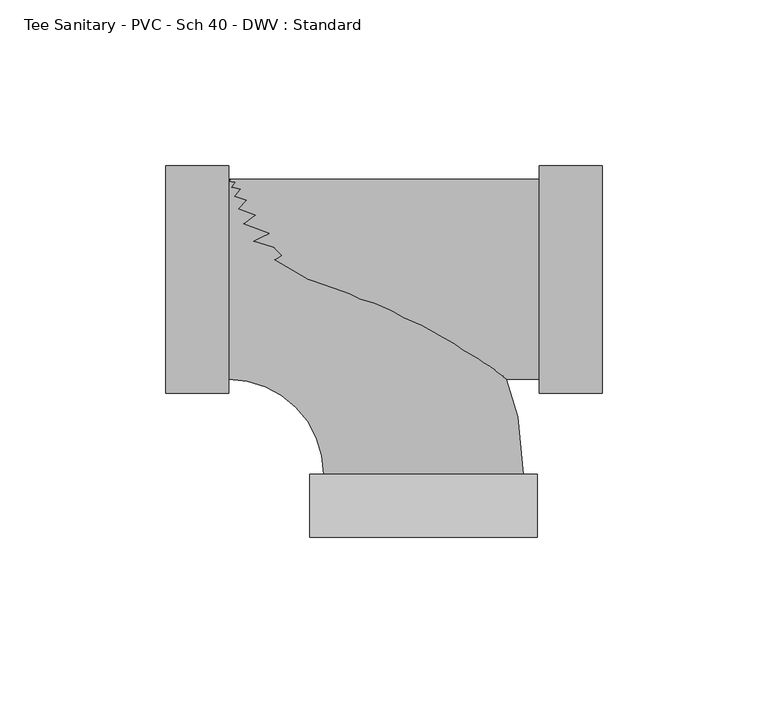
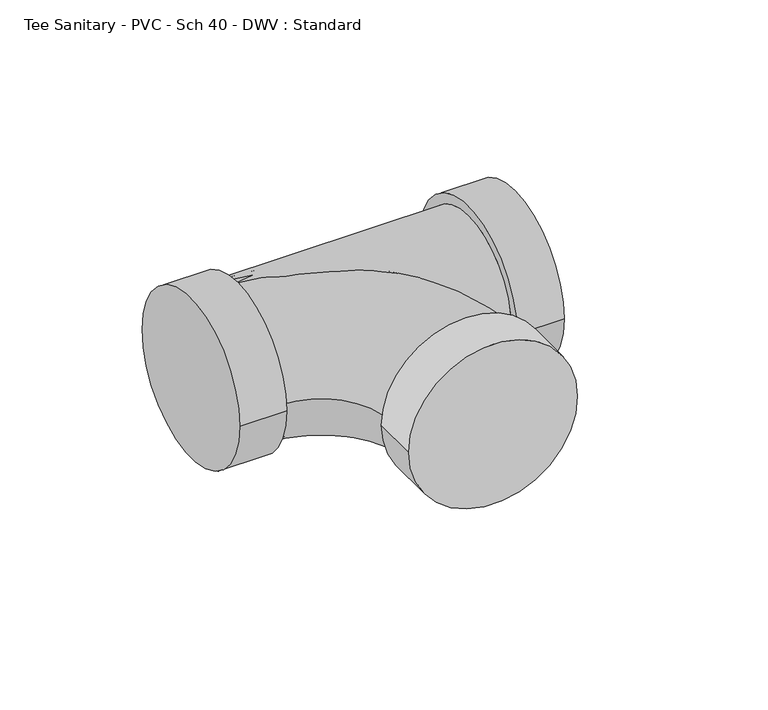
"""IFC4 building model written with IfcOpenShell, lengths in millimetres: pipe fitting geometry, Tee Sanitary - PVC - Sch 40 - DWV : Standard."""

from ifc_helpers import new_model, si_unit, point, frame, origin, place, context, project, spatial, circle_curve, ellipse_curve, trimmed, source, transform, mapped, element, save
from ifc_brep_helpers import plane_surface, cylinder_surface, revolved_surface, advanced_brep


def tee_sanitary_pvc_sch_40_dwv_standard_7b7ecc20(model_context):
    return source(origin(), model_context, "Body", "AdvancedBrep", [
        advanced_brep(
        [(-58.7502, -30.1625, 0.0), (-58.7502, 30.1625, 0.0), (-30.1625, -58.7502, 0.0), (30.1625, -58.7502, 0.0), (34.3154, -77.8002, 0.0), (-34.3154, -77.8002, 0.0), (34.3154, -58.7502, 0.0), (-34.3154, -58.7502, 0.0)],
        [
            (0, 1, circle_curve(frame((-58.7502, 0.0, 0.0), z_axis=(-1.0, 0.0, 0.0), x_axis=(0.0, 1.0, 0.0)), 30.1625)),
            (1, 0, circle_curve(frame((-58.7502, 0.0, 0.0), z_axis=(-1.0, 0.0, 0.0), x_axis=(0.0, 1.0, 0.0)), 30.1625)),
            (0, 2, circle_curve(frame((-58.7502, -58.7502, 0.0), z_axis=(0.0, 0.0, -1.0), x_axis=(0.0, 1.0, 0.0)), 28.5877)),
            (2, 3, circle_curve(frame((0.0, -58.7502, 0.0), z_axis=(0.0, 1.0, 0.0), x_axis=(1.0, 0.0, 0.0)), 30.1625)),
            (3, 1, circle_curve(frame((-58.7502, -58.7502, 0.0), z_axis=(0.0, 0.0, 1.0), x_axis=(0.0, 1.0, 0.0)), 88.9127)),
            (3, 2, circle_curve(frame((0.0, -58.7502, 0.0), z_axis=(0.0, 1.0, 0.0), x_axis=(1.0, 0.0, 0.0)), 30.1625)),
            (4, 5, circle_curve(frame((0.0, -77.8002, 0.0), z_axis=(0.0, -1.0, 0.0), x_axis=(-1.0, 0.0, 0.0)), 34.3154)),
            (5, 4, circle_curve(frame((0.0, -77.8002, 0.0), z_axis=(0.0, -1.0, 0.0), x_axis=(-1.0, 0.0, 0.0)), 34.3154)),
            (6, 7, circle_curve(frame((0.0, -58.7502, 0.0), z_axis=(0.0, 1.0, 0.0), x_axis=(-1.0, 0.0, 0.0)), 34.3154)),
            (7, 6, circle_curve(frame((0.0, -58.7502, 0.0), z_axis=(0.0, 1.0, 0.0), x_axis=(-1.0, 0.0, 0.0)), 34.3154)),
            (4, 6),
            (7, 5),
        ],
        [
            plane_surface(frame((-58.7502, 0.0, 0.0), z_axis=(-1.0, 0.0, 0.0), x_axis=(0.0, 0.0, 1.0))),
            revolved_surface(trimmed(ellipse_curve(frame((-58.7502, 0.0, 0.0), z_axis=(-1.0, 0.0, 0.0), x_axis=(0.0, 1.0, 0.0)), 30.1625, 30.1625), [point((-58.7502, -30.1625, 0.0))], [point((-58.7502, 30.1625, 0.0))], True, "CARTESIAN"), (-58.7502, -58.7502, 0.0), (0.0, 0.0, -1.0)),
            revolved_surface(trimmed(ellipse_curve(frame((-58.7502, 0.0, 0.0), z_axis=(-1.0, 0.0, 0.0), x_axis=(0.0, 1.0, 0.0)), 30.1625, 30.1625), [point((-58.7502, 30.1625, 0.0))], [point((-58.7502, -30.1625, 0.0))], True, "CARTESIAN"), (-58.7502, -58.7502, 0.0), (0.0, 0.0, -1.0)),
            plane_surface(frame((0.0, -77.8002, 0.0), z_axis=(0.0, -1.0, 0.0), x_axis=(0.0, 0.0, 1.0))),
            plane_surface(frame((0.0, -58.7502, 0.0), z_axis=(0.0, 1.0, 0.0), x_axis=(0.0, 0.0, 1.0))),
            cylinder_surface(frame((0.0, -77.8002, 0.0), z_axis=(0.0, -1.0, 0.0), x_axis=(-1.0, 0.0, 0.0)), 34.3154),
        ],
        [
            (0, [[1, 2]]),
            (1, [[-1, 3, 4, 5]]),
            (2, [[-2, -5, 6, -3]]),
            (3, [[7, 8]]),
            (4, [[9, 10], [-4, -6]]),
            (5, [[-7, 11, -10, 12]]),
            (5, [[-8, -12, -9, -11]]),
        ],
    ),
        advanced_brep(
        [(-58.7502, -30.1625, 0.0), (34.925, -30.1625, 0.0), (34.925, 30.1625, 0.0), (-58.7502, 30.1625, 0.0), (34.925, -34.3154, 0.0), (34.925, 34.3154, 0.0), (53.975, -34.3154, 0.0), (53.975, 34.3154, 0.0), (-77.8002, -34.3154, 0.0), (-77.8002, 34.3154, 0.0), (-58.7502, -34.3154, 0.0), (-58.7502, 34.3154, 0.0)],
        [
            (0, 1),
            (1, 2, circle_curve(frame((34.925, 0.0, 0.0), z_axis=(-1.0, 0.0, 0.0), x_axis=(0.0, 1.0, 0.0)), 30.1625)),
            (2, 3),
            (3, 0, circle_curve(frame((-58.7502, 0.0, 0.0), z_axis=(1.0, 0.0, 0.0), x_axis=(0.0, 1.0, 0.0)), 30.1625)),
            (0, 3, circle_curve(frame((-58.7502, 0.0, 0.0), z_axis=(1.0, 0.0, 0.0), x_axis=(0.0, 1.0, 0.0)), 30.1625)),
            (2, 1, circle_curve(frame((34.925, 0.0, 0.0), z_axis=(-1.0, 0.0, 0.0), x_axis=(0.0, 1.0, 0.0)), 30.1625)),
            (4, 5, circle_curve(frame((34.925, 0.0, 0.0), z_axis=(-1.0, 0.0, 0.0), x_axis=(0.0, 1.0, 0.0)), 34.3154)),
            (5, 4, circle_curve(frame((34.925, 0.0, 0.0), z_axis=(-1.0, 0.0, 0.0), x_axis=(0.0, 1.0, 0.0)), 34.3154)),
            (6, 7, circle_curve(frame((53.975, 0.0, 0.0), z_axis=(1.0, 0.0, 0.0), x_axis=(0.0, 1.0, 0.0)), 34.3154)),
            (7, 6, circle_curve(frame((53.975, 0.0, 0.0), z_axis=(1.0, 0.0, 0.0), x_axis=(0.0, 1.0, 0.0)), 34.3154)),
            (4, 6),
            (7, 5),
            (8, 9, circle_curve(frame((-77.8002, 0.0, 0.0), z_axis=(-1.0, 0.0, 0.0), x_axis=(0.0, 1.0, 0.0)), 34.3154)),
            (9, 8, circle_curve(frame((-77.8002, 0.0, 0.0), z_axis=(-1.0, 0.0, 0.0), x_axis=(0.0, 1.0, 0.0)), 34.3154)),
            (10, 11, circle_curve(frame((-58.7502, 0.0, 0.0), z_axis=(1.0, 0.0, 0.0), x_axis=(0.0, 1.0, 0.0)), 34.3154)),
            (11, 10, circle_curve(frame((-58.7502, 0.0, 0.0), z_axis=(1.0, 0.0, 0.0), x_axis=(0.0, 1.0, 0.0)), 34.3154)),
            (8, 10),
            (11, 9),
        ],
        [
            cylinder_surface(frame((-58.7502, 0.0, 0.0), z_axis=(-1.0, 0.0, 0.0), x_axis=(0.0, 1.0, 0.0)), 30.1625),
            plane_surface(frame((34.925, 0.0, 0.0), z_axis=(-1.0, 0.0, 0.0), x_axis=(0.0, 0.0, 1.0))),
            plane_surface(frame((53.975, 0.0, 0.0), z_axis=(1.0, 0.0, 0.0), x_axis=(0.0, 0.0, 1.0))),
            cylinder_surface(frame((34.925, 0.0, 0.0), z_axis=(-1.0, 0.0, 0.0), x_axis=(0.0, 1.0, 0.0)), 34.3154),
            plane_surface(frame((-77.8002, 0.0, 0.0), z_axis=(-1.0, 0.0, 0.0), x_axis=(0.0, 0.0, 1.0))),
            plane_surface(frame((-58.7502, 0.0, 0.0), z_axis=(1.0, 0.0, 0.0), x_axis=(0.0, 0.0, 1.0))),
            cylinder_surface(frame((-77.8002, 0.0, 0.0), z_axis=(-1.0, 0.0, 0.0), x_axis=(0.0, 1.0, 0.0)), 34.3154),
        ],
        [
            (0, [[1, 2, 3, 4]]),
            (0, [[-1, 5, -3, 6]]),
            (1, [[7, 8], [-2, -6]]),
            (2, [[9, 10]]),
            (3, [[-7, 11, -10, 12]]),
            (3, [[-8, -12, -9, -11]]),
            (4, [[13, 14]]),
            (5, [[15, 16], [-4, -5]]),
            (6, [[-13, 17, -16, 18]]),
            (6, [[-14, -18, -15, -17]]),
        ],
    ),
    ])


if __name__ == "__main__":
    model = new_model("IFC4")
    model_context = context("Model", 3, world=origin())
    ifc_project = project(units=[si_unit("LENGTHUNIT", "METRE", prefix="MILLI")], contexts=[model_context])
    site = spatial("IfcSite", under=ifc_project)
    building = spatial("IfcBuilding", under=site)
    placement = place(None, origin())
    tee_sanitary_pvc_sch_40_dwv_standard_shape = tee_sanitary_pvc_sch_40_dwv_standard_7b7ecc20(model_context)
    element("IfcPipeFitting", 1, ObjectType="Tee Sanitary - PVC - Sch 40 - DWV : Standard", at=placement, inside=building, context=model_context, shape_type="MappedRepresentation", body=[
        mapped(tee_sanitary_pvc_sch_40_dwv_standard_shape, transform((0.0, 0.0, 0.0), x_axis=(1.0, 0.0, 0.0), y_axis=(0.0, 1.0, 0.0), z_axis=(0.0, 0.0, 1.0))),
    ])
    save(model, "model.ifc")
